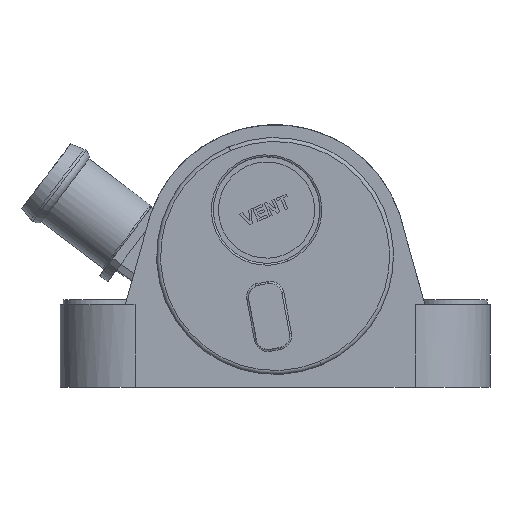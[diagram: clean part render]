
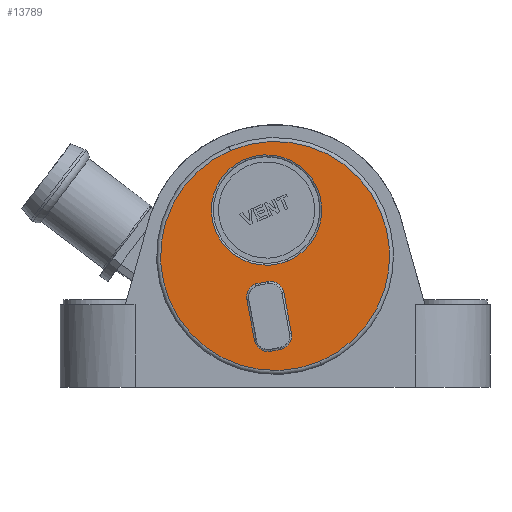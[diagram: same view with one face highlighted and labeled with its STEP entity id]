
A CAD part, front view. The second image highlights one B-rep face of the part: STEP entity #13789.
In plain terms, the highlighted planar face has unit normal (0, -1, 0).
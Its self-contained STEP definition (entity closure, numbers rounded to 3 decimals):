
#86 = DIRECTION ( 'NONE',  ( 0., 0., 1. ) ) ;
#174 = DIRECTION ( 'NONE',  ( 0., 0., 1. ) ) ;
#604 = CARTESIAN_POINT ( 'NONE',  ( 0., 0., 29.05 ) ) ;
#665 = LINE ( 'NONE', #13562, #15282 ) ;
#822 = CIRCLE ( 'NONE', #19342, 3.5 ) ;
#1000 = VERTEX_POINT ( 'NONE', #11205 ) ;
#1009 = AXIS2_PLACEMENT_3D ( 'NONE', #22895, #32325, #17629 ) ;
#1901 = VERTEX_POINT ( 'NONE', #25216 ) ;
#2553 = CARTESIAN_POINT ( 'NONE',  ( -10.516, 0., -21.791 ) ) ;
#3111 = EDGE_CURVE ( 'NONE', #1901, #30087, #32396, .T. ) ;
#3802 = CARTESIAN_POINT ( 'NONE',  ( 0., 0., 0. ) ) ;
#4240 = DIRECTION ( 'NONE',  ( 0., 0., 1. ) ) ;
#4390 = CARTESIAN_POINT ( 'NONE',  ( -8.026, 0., -22.342 ) ) ;
#4586 = ORIENTED_EDGE ( 'NONE', *, *, #12809, .T. ) ;
#4725 = EDGE_CURVE ( 'NONE', #1000, #30805, #17161, .T. ) ;
#5507 = ORIENTED_EDGE ( 'NONE', *, *, #17006, .T. ) ;
#5956 = EDGE_LOOP ( 'NONE', ( #10812, #19256, #19990, #24224, #24465, #24936, #22048, #4586, #5507 ) ) ;
#6025 = DIRECTION ( 'NONE',  ( 0., -1., 0. ) ) ;
#6210 = VERTEX_POINT ( 'NONE', #19412 ) ;
#6546 = EDGE_CURVE ( 'NONE', #19783, #10487, #24074, .T. ) ;
#6679 = DIRECTION ( 'NONE',  ( 0.976, 0., -0.216 ) ) ;
#6718 = DIRECTION ( 'NONE',  ( 0.216, 0., 0.976 ) ) ;
#6727 = CARTESIAN_POINT ( 'NONE',  ( 0., 0., 0. ) ) ;
#6849 = LINE ( 'NONE', #7002, #18480 ) ;
#6859 = EDGE_CURVE ( 'NONE', #30087, #1901, #24619, .T. ) ;
#7002 = CARTESIAN_POINT ( 'NONE',  ( -4.238, 0., -5.257 ) ) ;
#7529 = CARTESIAN_POINT ( 'NONE',  ( -4.996, 0., -8.674 ) ) ;
#8001 = DIRECTION ( 'NONE',  ( 0., 0., 1. ) ) ;
#8994 = DIRECTION ( 'NONE',  ( 0., 1., 0. ) ) ;
#10487 = VERTEX_POINT ( 'NONE', #12152 ) ;
#10502 = EDGE_LOOP ( 'NONE', ( #22701, #21489 ) ) ;
#10535 = CIRCLE ( 'NONE', #20578, 14. ) ;
#10756 = DIRECTION ( 'NONE',  ( -0.216, 0., -0.976 ) ) ;
#10812 = ORIENTED_EDGE ( 'NONE', *, *, #18942, .T. ) ;
#11129 = DIRECTION ( 'NONE',  ( 0., 1., 0. ) ) ;
#11205 = CARTESIAN_POINT ( 'NONE',  ( -4.238, 0., -5.257 ) ) ;
#12001 = DIRECTION ( 'NONE',  ( 0., 0., 1. ) ) ;
#12152 = CARTESIAN_POINT ( 'NONE',  ( 2.565, 0., 25.569 ) ) ;
#12636 = CARTESIAN_POINT ( 'NONE',  ( -1.579, 0., -9.432 ) ) ;
#12809 = EDGE_CURVE ( 'NONE', #30294, #25710, #17656, .T. ) ;
#12836 = DIRECTION ( 'NONE',  ( -0.976, 0., 0.216 ) ) ;
#13066 = EDGE_CURVE ( 'NONE', #6210, #1000, #6849, .T. ) ;
#13404 = DIRECTION ( 'NONE',  ( 0., 0., 1. ) ) ;
#13562 = CARTESIAN_POINT ( 'NONE',  ( -3.851, 0., -19.683 ) ) ;
#13602 = CARTESIAN_POINT ( 'NONE',  ( -7.485, 0., -4.622 ) ) ;
#13694 = ORIENTED_EDGE ( 'NONE', *, *, #6546, .T. ) ;
#13789 = ADVANCED_FACE ( 'NONE', ( #27234, #29705, #24282 ), #17000, .F. ) ;
#15282 = VECTOR ( 'NONE', #10756, 1000. ) ;
#16061 = AXIS2_PLACEMENT_3D ( 'NONE', #7529, #27868, #86 ) ;
#16209 = AXIS2_PLACEMENT_3D ( 'NONE', #26361, #8994, #26195 ) ;
#16674 = ORIENTED_EDGE ( 'NONE', *, *, #24315, .T. ) ;
#17000 = PLANE ( 'NONE',  #21162 ) ;
#17006 = EDGE_CURVE ( 'NONE', #25710, #26932, #822, .T. ) ;
#17161 = CIRCLE ( 'NONE', #16061, 3.5 ) ;
#17629 = DIRECTION ( 'NONE',  ( 0., 0., 1. ) ) ;
#17656 = LINE ( 'NONE', #2553, #26922 ) ;
#17942 = EDGE_CURVE ( 'NONE', #25469, #6210, #21952, .T. ) ;
#18480 = VECTOR ( 'NONE', #6679, 1000. ) ;
#18921 = CARTESIAN_POINT ( 'NONE',  ( -10.516, 0., -21.791 ) ) ;
#18942 = EDGE_CURVE ( 'NONE', #26932, #23930, #21129, .T. ) ;
#19256 = ORIENTED_EDGE ( 'NONE', *, *, #24177, .T. ) ;
#19342 = AXIS2_PLACEMENT_3D ( 'NONE', #24573, #31682, #12001 ) ;
#19412 = CARTESIAN_POINT ( 'NONE',  ( -6.728, 0., -4.705 ) ) ;
#19663 = VERTEX_POINT ( 'NONE', #24591 ) ;
#19783 = VERTEX_POINT ( 'NONE', #20288 ) ;
#19990 = ORIENTED_EDGE ( 'NONE', *, *, #17942, .T. ) ;
#20288 = CARTESIAN_POINT ( 'NONE',  ( 2.565, 0., -2.431 ) ) ;
#20352 = DIRECTION ( 'NONE',  ( 0., 0., 1. ) ) ;
#20578 = AXIS2_PLACEMENT_3D ( 'NONE', #20585, #11129, #8001 ) ;
#20585 = CARTESIAN_POINT ( 'NONE',  ( 2.565, 0., 11.569 ) ) ;
#20924 = AXIS2_PLACEMENT_3D ( 'NONE', #3802, #23837, #13404 ) ;
#21106 = CARTESIAN_POINT ( 'NONE',  ( -10.902, 0., -7.365 ) ) ;
#21129 = LINE ( 'NONE', #21783, #22518 ) ;
#21162 = AXIS2_PLACEMENT_3D ( 'NONE', #6727, #32196, #4240 ) ;
#21439 = CARTESIAN_POINT ( 'NONE',  ( -13.175, 0., -17.616 ) ) ;
#21489 = ORIENTED_EDGE ( 'NONE', *, *, #3111, .T. ) ;
#21634 = CIRCLE ( 'NONE', #1009, 3.5 ) ;
#21783 = CARTESIAN_POINT ( 'NONE',  ( -10.902, 0., -7.365 ) ) ;
#21952 = CIRCLE ( 'NONE', #25117, 3.5 ) ;
#22048 = ORIENTED_EDGE ( 'NONE', *, *, #29594, .T. ) ;
#22518 = VECTOR ( 'NONE', #6718, 1000. ) ;
#22701 = ORIENTED_EDGE ( 'NONE', *, *, #6859, .T. ) ;
#22895 = CARTESIAN_POINT ( 'NONE',  ( -7.485, 0., -8.122 ) ) ;
#23398 = AXIS2_PLACEMENT_3D ( 'NONE', #26231, #6025, #31344 ) ;
#23463 = DIRECTION ( 'NONE',  ( 0., 1., 0. ) ) ;
#23837 = DIRECTION ( 'NONE',  ( 0., -1., 0. ) ) ;
#23883 = EDGE_LOOP ( 'NONE', ( #16674, #13694 ) ) ;
#23930 = VERTEX_POINT ( 'NONE', #21106 ) ;
#24074 = CIRCLE ( 'NONE', #31444, 14. ) ;
#24177 = EDGE_CURVE ( 'NONE', #23930, #25469, #21634, .T. ) ;
#24178 = CIRCLE ( 'NONE', #16209, 3.5 ) ;
#24224 = ORIENTED_EDGE ( 'NONE', *, *, #13066, .T. ) ;
#24282 = FACE_BOUND ( 'NONE', #5956, .T. ) ;
#24315 = EDGE_CURVE ( 'NONE', #10487, #19783, #10535, .T. ) ;
#24465 = ORIENTED_EDGE ( 'NONE', *, *, #4725, .T. ) ;
#24573 = CARTESIAN_POINT ( 'NONE',  ( -9.758, 0., -18.373 ) ) ;
#24591 = CARTESIAN_POINT ( 'NONE',  ( -3.851, 0., -19.683 ) ) ;
#24619 = CIRCLE ( 'NONE', #20924, 29.05 ) ;
#24835 = EDGE_CURVE ( 'NONE', #30805, #19663, #665, .T. ) ;
#24936 = ORIENTED_EDGE ( 'NONE', *, *, #24835, .T. ) ;
#25117 = AXIS2_PLACEMENT_3D ( 'NONE', #29039, #23463, #20352 ) ;
#25216 = CARTESIAN_POINT ( 'NONE',  ( 0., 0., -29.05 ) ) ;
#25469 = VERTEX_POINT ( 'NONE', #13602 ) ;
#25710 = VERTEX_POINT ( 'NONE', #18921 ) ;
#26195 = DIRECTION ( 'NONE',  ( 0., 0., 1. ) ) ;
#26231 = CARTESIAN_POINT ( 'NONE',  ( 0., 0., 0. ) ) ;
#26361 = CARTESIAN_POINT ( 'NONE',  ( -7.269, 0., -18.925 ) ) ;
#26922 = VECTOR ( 'NONE', #12836, 1000. ) ;
#26932 = VERTEX_POINT ( 'NONE', #21439 ) ;
#27234 = FACE_OUTER_BOUND ( 'NONE', #10502, .T. ) ;
#27868 = DIRECTION ( 'NONE',  ( 0., 1., 0. ) ) ;
#27966 = DIRECTION ( 'NONE',  ( 0., 1., 0. ) ) ;
#29039 = CARTESIAN_POINT ( 'NONE',  ( -7.485, 0., -8.122 ) ) ;
#29594 = EDGE_CURVE ( 'NONE', #19663, #30294, #24178, .T. ) ;
#29705 = FACE_BOUND ( 'NONE', #23883, .T. ) ;
#30087 = VERTEX_POINT ( 'NONE', #604 ) ;
#30294 = VERTEX_POINT ( 'NONE', #4390 ) ;
#30745 = CARTESIAN_POINT ( 'NONE',  ( 2.565, 0., 11.569 ) ) ;
#30805 = VERTEX_POINT ( 'NONE', #12636 ) ;
#31344 = DIRECTION ( 'NONE',  ( 0., 0., 1. ) ) ;
#31444 = AXIS2_PLACEMENT_3D ( 'NONE', #30745, #27966, #174 ) ;
#31682 = DIRECTION ( 'NONE',  ( 0., 1., 0. ) ) ;
#32196 = DIRECTION ( 'NONE',  ( 0., 1., 0. ) ) ;
#32325 = DIRECTION ( 'NONE',  ( 0., 1., 0. ) ) ;
#32396 = CIRCLE ( 'NONE', #23398, 29.05 ) ;
